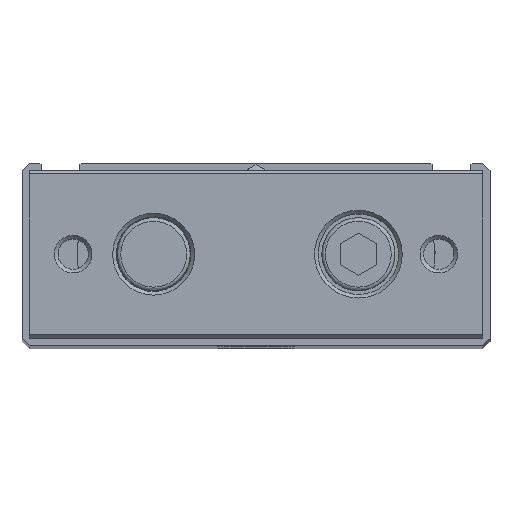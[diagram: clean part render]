
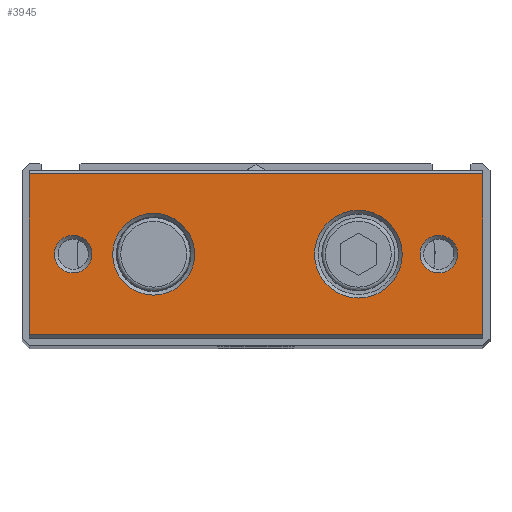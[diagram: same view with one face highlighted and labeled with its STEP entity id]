
A CAD part, top view. The second image highlights one B-rep face of the part: STEP entity #3945.
In plain terms, the highlighted planar face has unit normal (0, 0, 1).
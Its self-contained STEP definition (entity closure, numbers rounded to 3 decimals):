
#3393=CARTESIAN_POINT('',(-31.0,-11.,259.0));
#3394=VERTEX_POINT('',#3393);
#3401=CARTESIAN_POINT('',(-31.0,11.,259.0));
#3402=VERTEX_POINT('',#3401);
#3403=CARTESIAN_POINT('',(-31.0,11.,259.0));
#3404=DIRECTION('',(0.0,-1.0,0.0));
#3405=VECTOR('',#3404,22.);
#3406=LINE('',#3403,#3405);
#3407=EDGE_CURVE('',#3402,#3394,#3406,.T.);
#3521=CARTESIAN_POINT('',(31.0,-11.,259.0));
#3522=VERTEX_POINT('',#3521);
#3529=CARTESIAN_POINT('',(31.0,-11.,259.0));
#3530=DIRECTION('',(-1.0,0.0,0.0));
#3531=VECTOR('',#3530,62.0);
#3532=LINE('',#3529,#3531);
#3533=EDGE_CURVE('',#3522,#3394,#3532,.T.);
#3600=CARTESIAN_POINT('',(31.0,11.,259.0));
#3601=VERTEX_POINT('',#3600);
#3608=CARTESIAN_POINT('',(31.0,-11.,259.0));
#3609=DIRECTION('',(0.0,1.0,0.0));
#3610=VECTOR('',#3609,22.);
#3611=LINE('',#3608,#3610);
#3612=EDGE_CURVE('',#3522,#3601,#3611,.T.);
#3881=CARTESIAN_POINT('',(20.0,0.,259.0));
#3882=VERTEX_POINT('',#3881);
#3883=CARTESIAN_POINT('',(14.0,0.,259.0));
#3884=DIRECTION('',(0.0,0.0,1.0));
#3885=DIRECTION('',(-1.0,0.0,0.0));
#3886=AXIS2_PLACEMENT_3D('',#3883,#3884,#3885);
#3887=CIRCLE('',#3886,6.);
#3888=EDGE_CURVE('',#3882,#3882,#3887,.T.);
#3893=CARTESIAN_POINT('',(0.0,-11.5,259.0));
#3894=DIRECTION('',(0.0,0.0,1.0));
#3895=DIRECTION('',(1.0,0.0,0.0));
#3896=AXIS2_PLACEMENT_3D('',#3893,#3894,#3895);
#3897=PLANE('',#3896);
#3898=ORIENTED_EDGE('',*,*,#3533,.F.);
#3899=ORIENTED_EDGE('',*,*,#3612,.T.);
#3900=CARTESIAN_POINT('',(-31.0,11.,259.0));
#3901=DIRECTION('',(1.0,0.0,0.0));
#3902=VECTOR('',#3901,62.0);
#3903=LINE('',#3900,#3902);
#3904=EDGE_CURVE('',#3402,#3601,#3903,.T.);
#3905=ORIENTED_EDGE('',*,*,#3904,.F.);
#3906=ORIENTED_EDGE('',*,*,#3407,.T.);
#3907=EDGE_LOOP('',(#3898,#3899,#3905,#3906));
#3908=FACE_OUTER_BOUND('',#3907,.T.);
#3909=CARTESIAN_POINT('',(-8.4,0.,259.0));
#3910=VERTEX_POINT('',#3909);
#3911=CARTESIAN_POINT('',(-14.,0.,259.0));
#3912=DIRECTION('',(0.0,0.0,1.0));
#3913=DIRECTION('',(-1.0,0.0,0.0));
#3914=AXIS2_PLACEMENT_3D('',#3911,#3912,#3913);
#3915=CIRCLE('',#3914,5.6);
#3916=EDGE_CURVE('',#3910,#3910,#3915,.T.);
#3917=ORIENTED_EDGE('',*,*,#3916,.F.);
#3918=EDGE_LOOP('',(#3917));
#3919=FACE_BOUND('',#3918,.T.);
#3920=CARTESIAN_POINT('',(27.567,0.,259.0));
#3921=VERTEX_POINT('',#3920);
#3922=CARTESIAN_POINT('',(25.,0.,259.0));
#3923=DIRECTION('',(0.0,0.0,1.0));
#3924=DIRECTION('',(-1.0,0.0,0.0));
#3925=AXIS2_PLACEMENT_3D('',#3922,#3923,#3924);
#3926=CIRCLE('',#3925,2.567);
#3927=EDGE_CURVE('',#3921,#3921,#3926,.T.);
#3928=ORIENTED_EDGE('',*,*,#3927,.F.);
#3929=EDGE_LOOP('',(#3928));
#3930=FACE_BOUND('',#3929,.T.);
#3931=CARTESIAN_POINT('',(-22.433,0.,259.0));
#3932=VERTEX_POINT('',#3931);
#3933=CARTESIAN_POINT('',(-25.0,0.,259.0));
#3934=DIRECTION('',(0.0,0.0,1.0));
#3935=DIRECTION('',(-1.0,0.0,0.0));
#3936=AXIS2_PLACEMENT_3D('',#3933,#3934,#3935);
#3937=CIRCLE('',#3936,2.567);
#3938=EDGE_CURVE('',#3932,#3932,#3937,.T.);
#3939=ORIENTED_EDGE('',*,*,#3938,.F.);
#3940=EDGE_LOOP('',(#3939));
#3941=FACE_BOUND('',#3940,.T.);
#3942=ORIENTED_EDGE('',*,*,#3888,.F.);
#3943=EDGE_LOOP('',(#3942));
#3944=FACE_BOUND('',#3943,.T.);
#3945=ADVANCED_FACE('',(#3908,#3919,#3930,#3941,#3944),#3897,.T.);
